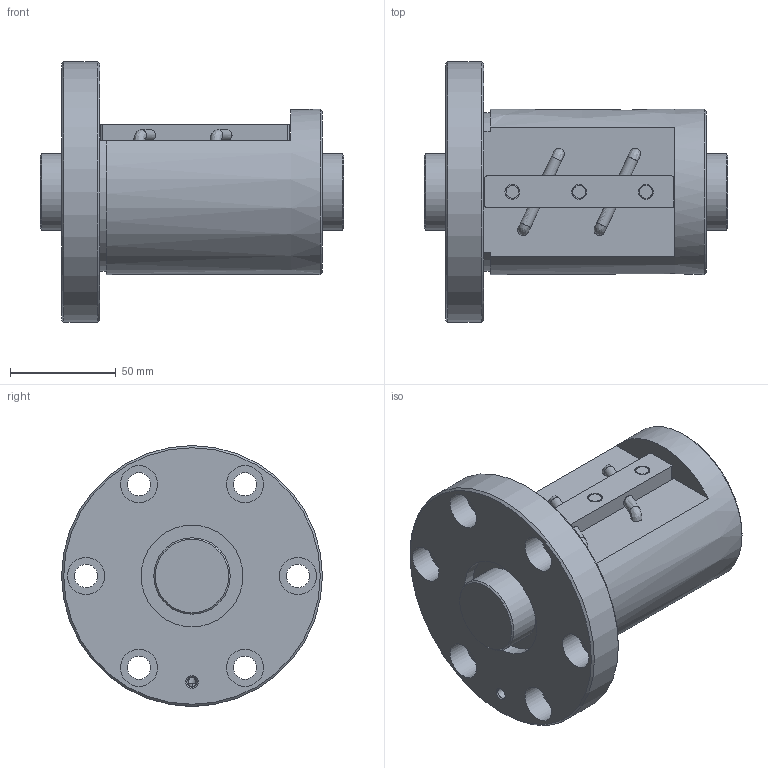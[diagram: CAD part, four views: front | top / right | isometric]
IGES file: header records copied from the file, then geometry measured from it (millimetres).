
Start section: Data from Parasolid IGES Translator 26.0.171, Copyright(c) 2006 Siemens PLM Software. All Rights Reserved.
Global section: file name: BNF3612V-5RRG1+143LC0_000_rev.igs; native system: By Siemens PLM Incorporated; preprocessor: XPlus GENERIC/IGES 26.0.171; author: Noname; organization: Noname; date: 20240806.083931; units: millimetre
Bounding box: 143 x 123 x 123 mm (x, y, z)
Surface area: 94520 mm2 (no closed solid volume)
Topology: 0 solids, 0 shells, 79 faces, 372 edges, 324 vertices
Faces by surface type: revolution 50, extrusion 29
